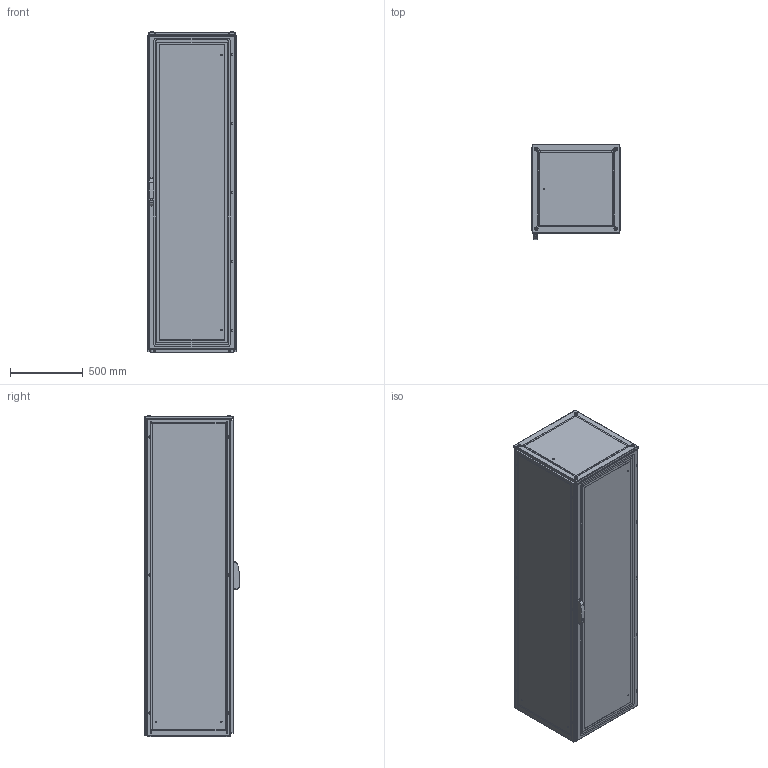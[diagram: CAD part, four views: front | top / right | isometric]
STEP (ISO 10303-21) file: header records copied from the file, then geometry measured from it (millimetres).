
FILE_DESCRIPTION(/* description */ ('STEP AP214'),/* implementation_level */ '2;1');
FILE_NAME(/* name */ 'ENUX062206PR-LOD350',/* time_stamp */ '2025-08-05T14:31:16+02:00',/* author */ ('License CC BY-ND 4.0'),/* organization */ ('CADENAS'),/* preprocessor_version */ 'ST-DEVELOPER v19.3',/* originating_system */ 'PARTsolutions',/* authorisation */ ' ');
FILE_SCHEMA (('AUTOMOTIVE_DESIGN {1 0 10303 214 3 1 1}'));
Length unit declared in the file: millimetre
Products named in the file (10): ENUX062206PR-LOD350; ENUX062206PR-LOD350_CON; ENUX062206PR-LOD350_floor1; ENUX062206PR-LOD350_floor2; Screw M12x30 architecture 350; ENUX062206PR-LOD350_side; ENUX062206PR-LOD350_top; ENUX062206PR-LOD350_back_door; ENUX062206PR-LOD350_door; ENUX062206PR-LOD350_handle
Assembly tree (16 placements, depth 2):
  ENUX062206PR-LOD350
    ENUX062206PR-LOD350_CON
    ENUX062206PR-LOD350_floor1  x2
    ENUX062206PR-LOD350_floor2  x3
    Screw M12x30 architecture 350  x4
    ENUX062206PR-LOD350_side  x2
    ENUX062206PR-LOD350_top
    ENUX062206PR-LOD350_back_door
    ENUX062206PR-LOD350_door
    ENUX062206PR-LOD350_handle
Bounding box: 612 x 657 x 2214.1 mm (x, y, z)
Volume: 20508156.7 mm3; surface area: 18154388.8 mm2
Topology: 16 solids, 16 shells, 1878 faces, 5297 edges, 3456 vertices
Faces by surface type: plane 928, cylinder 775, cone 83, torus 76, sphere 16
Full cylindrical faces by diameter (mm): 4.5 x144, 6 x14, 6.8 x8, 9 x9, 12 x16, 13 x4, 18 x1, 21 x4
Entity records: 50203 total; most frequent: DIRECTION 8697, CARTESIAN_POINT 8685, ORIENTED_EDGE 8160, EDGE_CURVE 4080, AXIS2_PLACEMENT_3D 3110, VERTEX_POINT 2857, LINE 2477, VECTOR 2477
